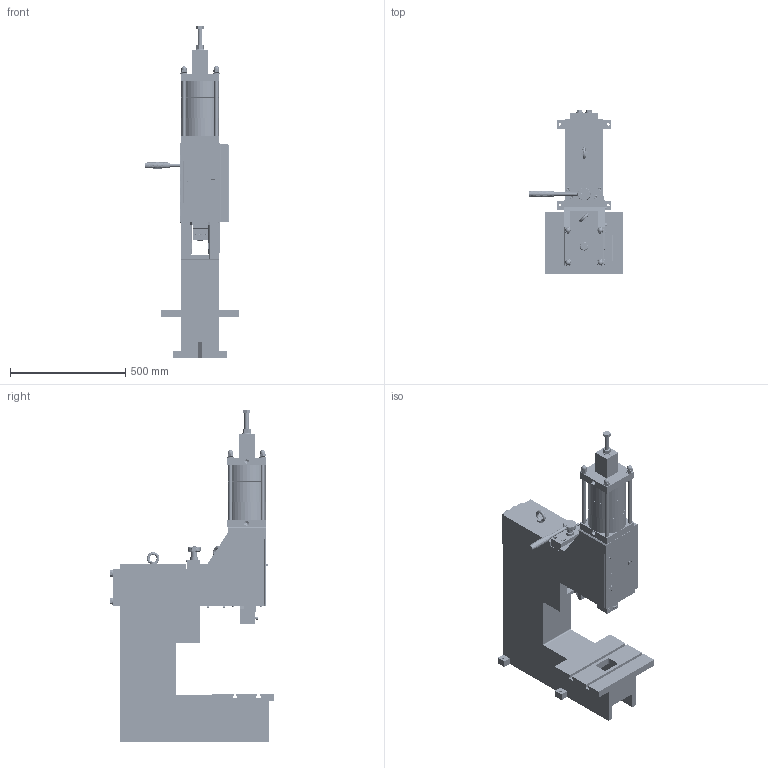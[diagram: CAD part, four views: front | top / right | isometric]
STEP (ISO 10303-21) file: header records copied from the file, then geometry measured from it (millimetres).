
FILE_DESCRIPTION(/* description */ (''),/* implementation_level */ '2;1');
FILE_NAME(/* name */ 'P:\CAD-Daten-für-Kunden\03_Pressen LP\02_LP MS\LP-MS 33kN\Presse_LP-MS_33kN_G0601_Hub40_ANR27390.stp',/* time_stamp */ '2021-02-18T16:06:12+01:00',/* author */ ('gsp'),/* organization */ (''),/* preprocessor_version */ 'ST-DEVELOPER v18',/* originating_system */ 'Autodesk Inventor 2020',/* authorisation */ '');
FILE_SCHEMA (('AUTOMOTIVE_DESIGN { 1 0 10303 214 3 1 1 }'));
Products named in the file (6): Presse_LP-MS_33kN_G0601_Hub40_ANR27390; Ständereinheit_G0601_ANR18192; Spannplatte G0601; Führungseinheit_LP-MS G0600_ohne_Schlitten_ANR280
04; Schlittendummy_LP-MS_G0600_ANR33159; LP_Zylinder_33kN_Hub40_ANR18110
Assembly tree (5 placements, depth 2):
  Presse_LP-MS_33kN_G0601_Hub40_ANR27390
    Ständereinheit_G0601_ANR18192
    Spannplatte G0601
    Führungseinheit_LP-MS G0600_ohne_Schlitten_ANR280
04
    Schlittendummy_LP-MS_G0600_ANR33159
    LP_Zylinder_33kN_Hub40_ANR18110
Bounding box: 410 x 713 x 1437.6 mm (x, y, z)
Volume: 43550459.2 mm3; surface area: 3848940.7 mm2
Topology: 6 solids, 92 shells, 8771 faces, 23983 edges, 15972 vertices
Faces by surface type: plane 5160, bspline 2556, cylinder 671, cone 306, torus 70, sphere 8
Full cylindrical faces by diameter (mm): 2 x6, 2.1 x4, 2.459 x2, 2.8 x1, 3 x18, 3.2 x4, 3.242 x8, 4 x10, 4.134 x22, 4.2 x2, 4.5 x2, 4.917 x1, 5 x6, 5.1 x4, 5.2 x8, 5.5 x12, 6.2 x3, 6.647 x9, 6.8 x8, 6.917 x1, 7 x4, 8 x17, 8.4 x12, 8.5 x20, 9 x15, 10 x35, 10.106 x5, 10.3 x2, 10.45 x52, 10.5 x4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
Entity records: 311188 total; most frequent: CARTESIAN_POINT 97041, ORIENTED_EDGE 47742, DIRECTION 32562, EDGE_CURVE 23871, VERTEX_POINT 15974, LINE 15702, VECTOR 15702, EDGE_LOOP 9695
